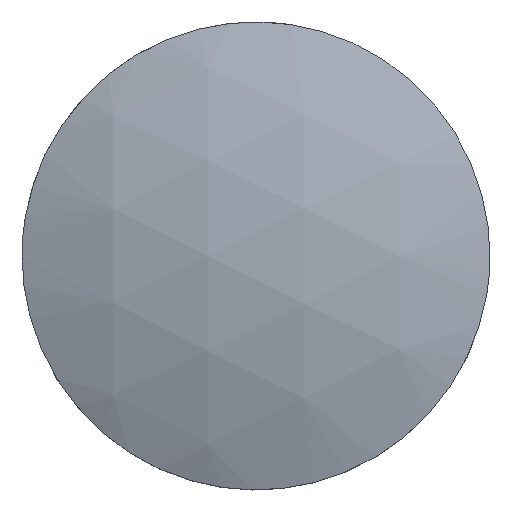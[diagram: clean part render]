
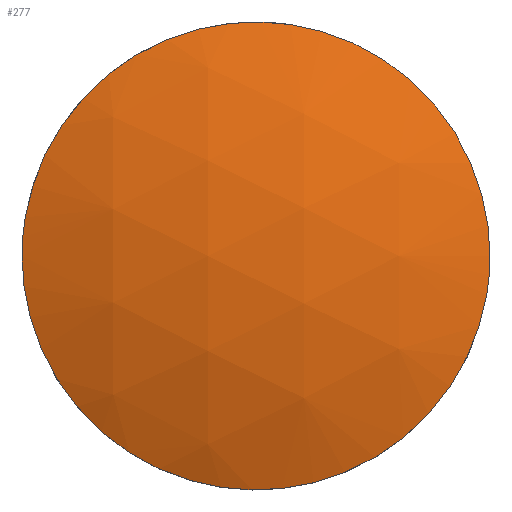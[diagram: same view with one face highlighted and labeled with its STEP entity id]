
A CAD part, top view. The second image highlights one B-rep face of the part: STEP entity #277.
In plain terms, the highlighted spherical face has radius 33.24 mm.
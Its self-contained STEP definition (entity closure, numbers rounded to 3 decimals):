
#19 = CARTESIAN_POINT ('', (-12.5, 0., -2.44));
#20 = VERTEX_POINT ('', #19);
#26 = CARTESIAN_POINT ('', (12.5, 0., -2.44));
#27 = VERTEX_POINT ('', #26);
#28 = CARTESIAN_POINT ('', (12.5, 0., -2.44));
#29 = CARTESIAN_POINT ('', (12.5, 12.5, -2.44));
#30 = CARTESIAN_POINT ('', (0., 12.5, -2.44));
#31 = CARTESIAN_POINT ('', (-12.5, 12.5, -2.44));
#32 = CARTESIAN_POINT ('', (-12.5, 0., -2.44));
#33 = (
   BOUNDED_CURVE ()
   B_SPLINE_CURVE (2, (#28, #29, #30, #31, #32), .UNSPECIFIED., .F., .U.)
   B_SPLINE_CURVE_WITH_KNOTS ((3, 2, 3), (0., 1.571, 3.142), .UNSPECIFIED.)
   CURVE ()
   GEOMETRIC_REPRESENTATION_ITEM ()
   RATIONAL_B_SPLINE_CURVE ((1., 0.707, 1., 0.707, 1.))
   REPRESENTATION_ITEM ('')
);
#34 = EDGE_CURVE ('', #27, #20, #33, .T.);
#58 = CARTESIAN_POINT ('', (-12.5, 0., -2.44));
#59 = CARTESIAN_POINT ('', (-12.5, -12.5, -2.44));
#60 = CARTESIAN_POINT ('', (0., -12.5, -2.44));
#61 = CARTESIAN_POINT ('', (12.5, -12.5, -2.44));
#62 = CARTESIAN_POINT ('', (12.5, 0., -2.44));
#63 = (
   BOUNDED_CURVE ()
   B_SPLINE_CURVE (2, (#58, #59, #60, #61, #62), .UNSPECIFIED., .F., .U.)
   B_SPLINE_CURVE_WITH_KNOTS ((3, 2, 3), (3.142, 4.712, 6.283), .UNSPECIFIED.)
   CURVE ()
   GEOMETRIC_REPRESENTATION_ITEM ()
   RATIONAL_B_SPLINE_CURVE ((1., 0.707, 1., 0.707, 1.))
   REPRESENTATION_ITEM ('')
);
#64 = EDGE_CURVE ('', #20, #27, #63, .T.);
#268 = ORIENTED_EDGE ('', *, *, #34, .T.);
#269 = ORIENTED_EDGE ('', *, *, #64, .T.);
#270 = EDGE_LOOP ('', (#268, #269));
#271 = FACE_OUTER_BOUND ('', #270, .T.);
#272 = CARTESIAN_POINT ('', (0., 0., -33.24));
#273 = DIRECTION ('', (-1., 0., 0.));
#274 = DIRECTION ('', (0., -1., 0.));
#275 = AXIS2_PLACEMENT_3D ('', #272, #273, #274);
#276 = SPHERICAL_SURFACE ('', #275, 33.24);
#277 = ADVANCED_FACE ('', (#271), #276, .T.);
